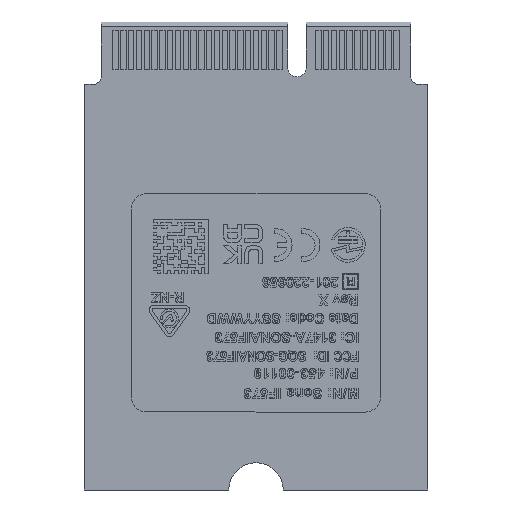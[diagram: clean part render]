
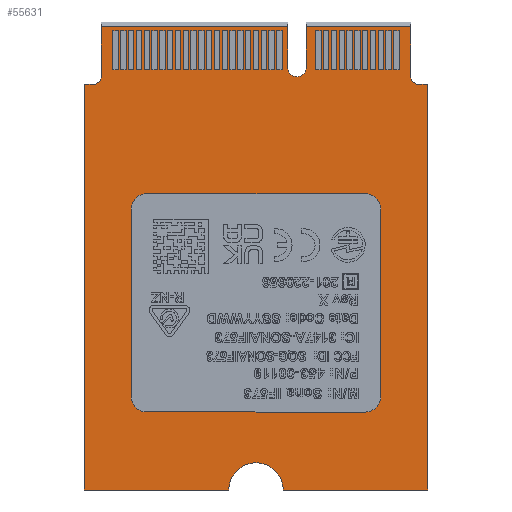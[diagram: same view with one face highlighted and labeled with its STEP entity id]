
A CAD part, front view. The second image highlights one B-rep face of the part: STEP entity #55631.
In plain terms, the highlighted planar face has unit normal (0, -1, 0).
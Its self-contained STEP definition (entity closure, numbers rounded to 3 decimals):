
#969 = VERTEX_POINT ( 'NONE', #561195 ) ;
#7712 = ORIENTED_EDGE ( 'NONE', *, *, #512975, .F. ) ;
#8488 = VERTEX_POINT ( 'NONE', #315258 ) ;
#10906 = CARTESIAN_POINT ( 'NONE',  ( 2.625, 0., 12.1 ) ) ;
#21990 = CARTESIAN_POINT ( 'NONE',  ( 3.225, 0., 12.1 ) ) ;
#31401 = DIRECTION ( 'NONE',  ( -1., 0., 0. ) ) ;
#37381 = ORIENTED_EDGE ( 'NONE', *, *, #343983, .F. ) ;
#42561 = ORIENTED_EDGE ( 'NONE', *, *, #193831, .F. ) ;
#44719 = EDGE_CURVE ( 'NONE', #475338, #293311, #305596, .T. ) ;
#55631 = ADVANCED_FACE ( 'NONE', ( #294651 ), #433218, .F. ) ;
#59464 = VECTOR ( 'NONE', #297647, 1000. ) ;
#67418 = EDGE_CURVE ( 'NONE', #149032, #96677, #114724, .T. ) ;
#69088 = CARTESIAN_POINT ( 'NONE',  ( 10.425, 0., 11. ) ) ;
#69284 = VECTOR ( 'NONE', #286387, 1000. ) ;
#69860 = DIRECTION ( 'NONE',  ( -0.003, 0., -1. ) ) ;
#72752 = DIRECTION ( 'NONE',  ( 0., -1., 0. ) ) ;
#76393 = CIRCLE ( 'NONE', #377942, 0.6 ) ;
#77038 = VECTOR ( 'NONE', #519226, 1000. ) ;
#79101 = ORIENTED_EDGE ( 'NONE', *, *, #480845, .F. ) ;
#82001 = VECTOR ( 'NONE', #181069, 1000. ) ;
#82643 = ORIENTED_EDGE ( 'NONE', *, *, #105923, .F. ) ;
#85216 = ORIENTED_EDGE ( 'NONE', *, *, #287453, .F. ) ;
#85323 = ORIENTED_EDGE ( 'NONE', *, *, #111573, .T. ) ;
#86726 = VECTOR ( 'NONE', #202599, 1000. ) ;
#88457 = VERTEX_POINT ( 'NONE', #551265 ) ;
#91057 = ORIENTED_EDGE ( 'NONE', *, *, #225340, .F. ) ;
#92187 = CARTESIAN_POINT ( 'NONE',  ( -9.925, 0., 11.5 ) ) ;
#96677 = VERTEX_POINT ( 'NONE', #92187 ) ;
#99442 = VERTEX_POINT ( 'NONE', #169360 ) ;
#100845 = CARTESIAN_POINT ( 'NONE',  ( -11., 0., 14.7 ) ) ;
#105923 = EDGE_CURVE ( 'NONE', #96677, #99442, #532012, .T. ) ;
#111573 = EDGE_CURVE ( 'NONE', #475338, #8488, #177761, .T. ) ;
#114724 = CIRCLE ( 'NONE', #265000, 0.498 ) ;
#122062 = ORIENTED_EDGE ( 'NONE', *, *, #233380, .F. ) ;
#122774 = VERTEX_POINT ( 'NONE', #365406 ) ;
#127394 = LINE ( 'NONE', #307497, #69284 ) ;
#127982 = CARTESIAN_POINT ( 'NONE',  ( -9.925, 0., 11.5 ) ) ;
#129685 = VERTEX_POINT ( 'NONE', #21990 ) ;
#130365 = CARTESIAN_POINT ( 'NONE',  ( 11., 0., 11. ) ) ;
#133036 = EDGE_CURVE ( 'NONE', #99442, #164536, #480311, .T. ) ;
#133390 = DIRECTION ( 'NONE',  ( 0., 0., 1. ) ) ;
#135476 = LINE ( 'NONE', #315515, #360574 ) ;
#137774 = DIRECTION ( 'NONE',  ( 0., -1., 0. ) ) ;
#141210 = AXIS2_PLACEMENT_3D ( 'NONE', #300484, #565845, #515740 ) ;
#145363 = CARTESIAN_POINT ( 'NONE',  ( 9.925, 0., 15. ) ) ;
#149032 = VERTEX_POINT ( 'NONE', #424752 ) ;
#153931 = LINE ( 'NONE', #100845, #368226 ) ;
#156620 = CARTESIAN_POINT ( 'NONE',  ( -11., 0., 11. ) ) ;
#164536 = VERTEX_POINT ( 'NONE', #424390 ) ;
#169360 = CARTESIAN_POINT ( 'NONE',  ( -9.925, 0., 14.7 ) ) ;
#174044 = ORIENTED_EDGE ( 'NONE', *, *, #181564, .F. ) ;
#174815 = LINE ( 'NONE', #404756, #249728 ) ;
#177761 = CIRCLE ( 'NONE', #507187, 1.75 ) ;
#180601 = EDGE_CURVE ( 'NONE', #164536, #507207, #135476, .T. ) ;
#181069 = DIRECTION ( 'NONE',  ( 0., 0., 1. ) ) ;
#181564 = EDGE_CURVE ( 'NONE', #507207, #129685, #76393, .T. ) ;
#182709 = DIRECTION ( 'NONE',  ( 0., 0., -1. ) ) ;
#193831 = EDGE_CURVE ( 'NONE', #122774, #88457, #153931, .T. ) ;
#195637 = CARTESIAN_POINT ( 'NONE',  ( -11., 0., -15. ) ) ;
#202599 = DIRECTION ( 'NONE',  ( -1., 0., 0. ) ) ;
#205457 = CARTESIAN_POINT ( 'NONE',  ( 11., 0., -15. ) ) ;
#205500 = EDGE_CURVE ( 'NONE', #129685, #122774, #512092, .T. ) ;
#206595 = ORIENTED_EDGE ( 'NONE', *, *, #44719, .F. ) ;
#217952 = LINE ( 'NONE', #397933, #402955 ) ;
#225340 = EDGE_CURVE ( 'NONE', #293311, #388923, #174815, .T. ) ;
#226208 = DIRECTION ( 'NONE',  ( 0., -1., 0. ) ) ;
#227770 = EDGE_LOOP ( 'NONE', ( #79101, #42561, #470865, #174044, #238156, #326988, #82643, #529124, #122062, #91057, #206595, #85323, #7712, #377042, #37381, #85216 ) ) ;
#233380 = EDGE_CURVE ( 'NONE', #388923, #149032, #250815, .T. ) ;
#238156 = ORIENTED_EDGE ( 'NONE', *, *, #180601, .F. ) ;
#243690 = DIRECTION ( 'NONE',  ( 0., 0., 1. ) ) ;
#243854 = CARTESIAN_POINT ( 'NONE',  ( -10.423, 0., 11.498 ) ) ;
#244374 = CARTESIAN_POINT ( 'NONE',  ( -1.75, 0., -15. ) ) ;
#249728 = VECTOR ( 'NONE', #133390, 1000. ) ;
#250815 = LINE ( 'NONE', #156620, #77038 ) ;
#265000 = AXIS2_PLACEMENT_3D ( 'NONE', #243854, #72752, #69860 ) ;
#275483 = DIRECTION ( 'NONE',  ( 0., 1., 0. ) ) ;
#282049 = AXIS2_PLACEMENT_3D ( 'NONE', #503274, #226208, #282107 ) ;
#282107 = DIRECTION ( 'NONE',  ( -1., 0., 0.003 ) ) ;
#286387 = DIRECTION ( 'NONE',  ( 1., 0., 0. ) ) ;
#287453 = EDGE_CURVE ( 'NONE', #487744, #428416, #432853, .T. ) ;
#293311 = VERTEX_POINT ( 'NONE', #195637 ) ;
#294651 = FACE_OUTER_BOUND ( 'NONE', #227770, .T. ) ;
#297647 = DIRECTION ( 'NONE',  ( 1., 0., 0. ) ) ;
#300484 = CARTESIAN_POINT ( 'NONE',  ( 0.15, 0., 0.404 ) ) ;
#305596 = LINE ( 'NONE', #523728, #427944 ) ;
#307497 = CARTESIAN_POINT ( 'NONE',  ( 10.425, 0., 11. ) ) ;
#315258 = CARTESIAN_POINT ( 'NONE',  ( 1.75, 0., -15. ) ) ;
#315515 = CARTESIAN_POINT ( 'NONE',  ( 2.025, 0., 15. ) ) ;
#319812 = DIRECTION ( 'NONE',  ( 1., 0., 0. ) ) ;
#322187 = DIRECTION ( 'NONE',  ( 1., 0., 0. ) ) ;
#326988 = ORIENTED_EDGE ( 'NONE', *, *, #133036, .F. ) ;
#332745 = DIRECTION ( 'NONE',  ( 0., 0., -1. ) ) ;
#343983 = EDGE_CURVE ( 'NONE', #428416, #441058, #127394, .T. ) ;
#352385 = VECTOR ( 'NONE', #243690, 1000. ) ;
#360574 = VECTOR ( 'NONE', #182709, 1000. ) ;
#360900 = DIRECTION ( 'NONE',  ( 0., 0., -1. ) ) ;
#363985 = CARTESIAN_POINT ( 'NONE',  ( 0., 0., -15. ) ) ;
#365406 = CARTESIAN_POINT ( 'NONE',  ( 3.225, 0., 14.7 ) ) ;
#368226 = VECTOR ( 'NONE', #322187, 1000. ) ;
#377042 = ORIENTED_EDGE ( 'NONE', *, *, #397701, .F. ) ;
#377942 = AXIS2_PLACEMENT_3D ( 'NONE', #10906, #137774, #494589 ) ;
#388923 = VERTEX_POINT ( 'NONE', #495630 ) ;
#394488 = VECTOR ( 'NONE', #360900, 1000. ) ;
#397701 = EDGE_CURVE ( 'NONE', #441058, #969, #217952, .T. ) ;
#397933 = CARTESIAN_POINT ( 'NONE',  ( 11., 0., 11. ) ) ;
#402955 = VECTOR ( 'NONE', #332745, 1000. ) ;
#404756 = CARTESIAN_POINT ( 'NONE',  ( -11., 0., -15. ) ) ;
#424390 = CARTESIAN_POINT ( 'NONE',  ( 2.025, 0., 14.7 ) ) ;
#424752 = CARTESIAN_POINT ( 'NONE',  ( -10.425, 0., 11. ) ) ;
#427944 = VECTOR ( 'NONE', #31401, 1000. ) ;
#428416 = VERTEX_POINT ( 'NONE', #69088 ) ;
#432853 = CIRCLE ( 'NONE', #282049, 0.498 ) ;
#433218 = PLANE ( 'NONE',  #141210 ) ;
#441058 = VERTEX_POINT ( 'NONE', #130365 ) ;
#459169 = CARTESIAN_POINT ( 'NONE',  ( 3.225, 0., 12.1 ) ) ;
#461714 = CARTESIAN_POINT ( 'NONE',  ( 9.925, 0., 11.5 ) ) ;
#465149 = CARTESIAN_POINT ( 'NONE',  ( 2.025, 0., 12.1 ) ) ;
#470865 = ORIENTED_EDGE ( 'NONE', *, *, #205500, .F. ) ;
#471012 = LINE ( 'NONE', #205457, #86726 ) ;
#475338 = VERTEX_POINT ( 'NONE', #244374 ) ;
#480311 = LINE ( 'NONE', #530367, #59464 ) ;
#480845 = EDGE_CURVE ( 'NONE', #88457, #487744, #576376, .T. ) ;
#487744 = VERTEX_POINT ( 'NONE', #461714 ) ;
#494589 = DIRECTION ( 'NONE',  ( -1., 0., 0. ) ) ;
#495630 = CARTESIAN_POINT ( 'NONE',  ( -11., 0., 11. ) ) ;
#503274 = CARTESIAN_POINT ( 'NONE',  ( 10.423, 0., 11.498 ) ) ;
#507187 = AXIS2_PLACEMENT_3D ( 'NONE', #363985, #275483, #319812 ) ;
#507207 = VERTEX_POINT ( 'NONE', #465149 ) ;
#512092 = LINE ( 'NONE', #459169, #352385 ) ;
#512975 = EDGE_CURVE ( 'NONE', #969, #8488, #471012, .T. ) ;
#515740 = DIRECTION ( 'NONE',  ( 1., 0., 0. ) ) ;
#519226 = DIRECTION ( 'NONE',  ( 1., 0., 0. ) ) ;
#523728 = CARTESIAN_POINT ( 'NONE',  ( -1.75, 0., -15. ) ) ;
#529124 = ORIENTED_EDGE ( 'NONE', *, *, #67418, .F. ) ;
#530367 = CARTESIAN_POINT ( 'NONE',  ( -11., 0., 14.7 ) ) ;
#532012 = LINE ( 'NONE', #127982, #82001 ) ;
#551265 = CARTESIAN_POINT ( 'NONE',  ( 9.925, 0., 14.7 ) ) ;
#561195 = CARTESIAN_POINT ( 'NONE',  ( 11., 0., -15. ) ) ;
#565845 = DIRECTION ( 'NONE',  ( 0., 1., 0. ) ) ;
#576376 = LINE ( 'NONE', #145363, #394488 ) ;
